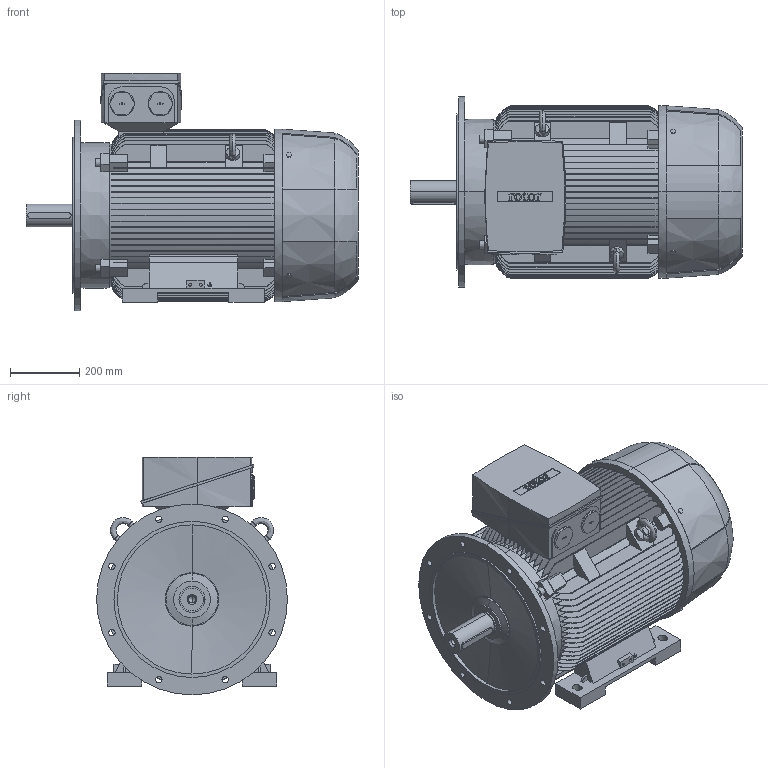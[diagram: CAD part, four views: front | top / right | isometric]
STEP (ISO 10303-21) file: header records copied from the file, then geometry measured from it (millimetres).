
FILE_DESCRIPTION (( 'STEP AP214' ), '1' );
FILE_NAME ('6RN250M04E16 IM2041.STEP', '2018-04-06T11:33:18', ( '' ), ( '' ), 'SwSTEP 2.0', 'SolidWorks 2015', '' );
FILE_SCHEMA (( 'AUTOMOTIVE_DESIGN' ));
Length unit declared in the file: millimetre
Products named in the file (1): 6RN250M04E16 IM2041
Bounding box: 957 x 550 x 685 mm (x, y, z)
Volume: 138248792.8 mm3; surface area: 5013666.3 mm2
Topology: 7 solids, 7 shells, 1008 faces, 2841 edges, 1879 vertices
Faces by surface type: plane 577, bspline 210, cylinder 202, cone 19
Entity records: 52838 total; most frequent: CARTESIAN_POINT 18347, ORIENTED_EDGE 5678, DIRECTION 4174, EDGE_CURVE 2839, VERTEX_POINT 1879, VECTOR 1602, LINE 1602, AXIS2_PLACEMENT_3D 1286
